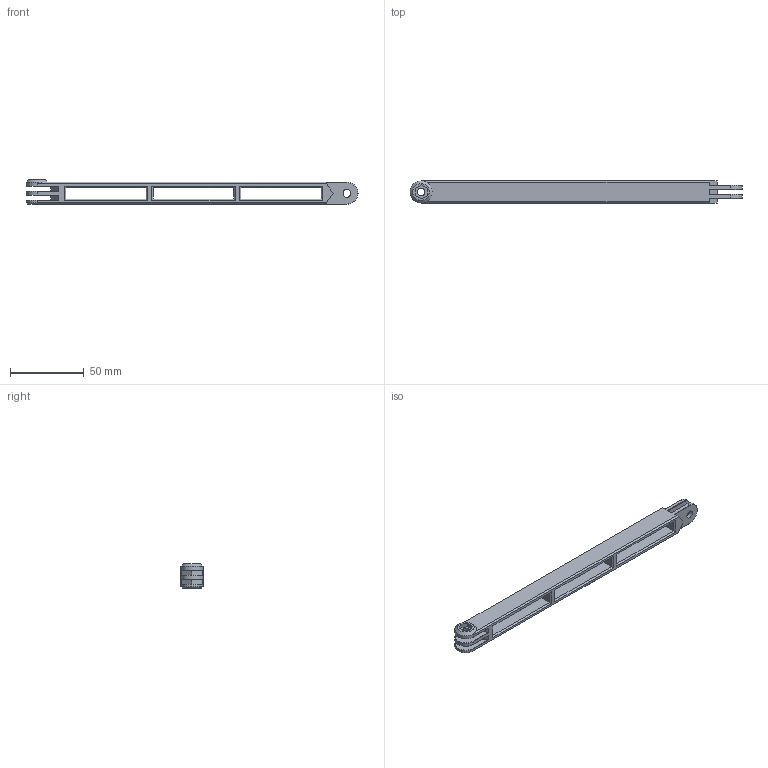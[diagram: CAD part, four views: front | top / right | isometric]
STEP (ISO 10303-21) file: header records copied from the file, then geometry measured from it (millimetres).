
FILE_DESCRIPTION(/* description */ ('STEP AP214'),/* implementation_level */ '2;1');
FILE_NAME(/* name */ '60a1cba947515311da46b7ca',/* time_stamp */ '2021-05-17T01:49:30+00:00',/* author */ (''),/* organization */ (''),/* preprocessor_version */ 'ST-DEVELOPER v18.1',/* originating_system */ ' ',/* authorisation */ ' ');
FILE_SCHEMA (('AUTOMOTIVE_DESIGN {1 0 10303 214 3 1 1}'));
Length unit declared in the file: metre
Products named in the file (1): Arm Rotated
Bounding box: 225 x 15 x 16.8 mm (x, y, z)
Volume: 25543.1 mm3; surface area: 16926.8 mm2
Topology: 1 solids, 1 shells, 116 faces, 300 edges, 187 vertices
Faces by surface type: plane 96, cylinder 10, cone 10
Full cylindrical faces by diameter (mm): 5.3 x5
Entity records: 3423 total; most frequent: CARTESIAN_POINT 586, ORIENTED_EDGE 576, DIRECTION 555, EDGE_CURVE 288, LINE 255, VECTOR 255, VERTEX_POINT 181, AXIS2_PLACEMENT_3D 150
